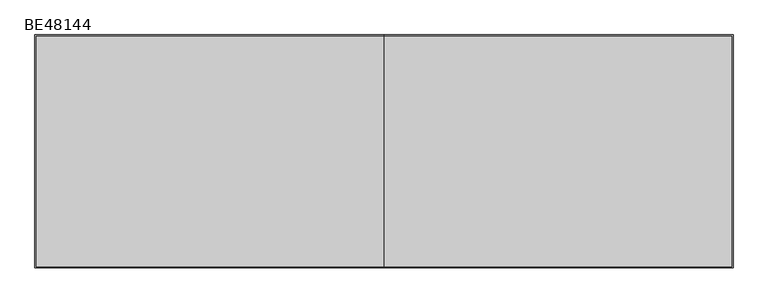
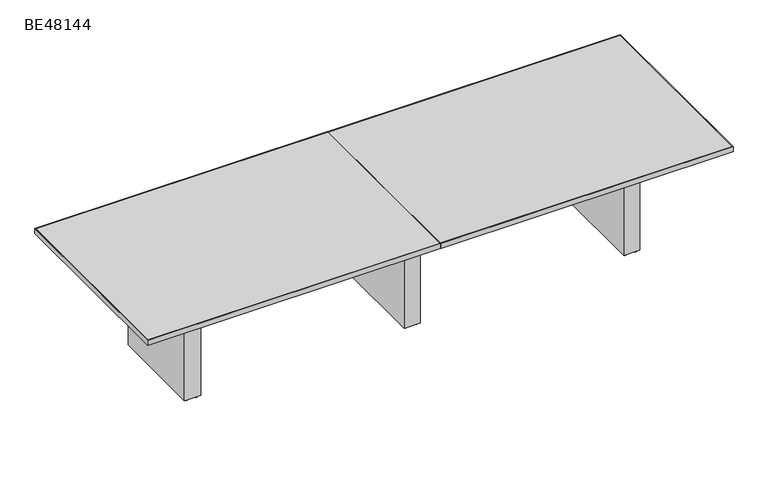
"""IFC4 building model written with IfcOpenShell, lengths in millimetres: furniture geometry, ERG-Beta-Conference_Table-Rectangle : BE48144."""

from ifc_helpers import new_model, si_unit, point, frame, frame_2d, origin, origin_with_axes, place, context, project, spatial, polyline, circle_curve, trimmed, segment, composite_curve, outline, extrude, source, transform, mapped, element, save


def be48144_10aec17a(model_context):
    return source(origin(), model_context, "Body", "SweptSolid", [
        extrude(outline(composite_curve([segment(trimmed(circle_curve(frame_2d((511.175, 339.476527)), 9.525), [point((501.65, 339.476527))], [point((520.7, 339.476527))], False, "CARTESIAN"), True, "CONTINUOUS"), segment(trimmed(circle_curve(frame_2d((511.175, 339.476527)), 9.525), [point((520.7, 339.476527))], [point((501.65, 339.476527))], False, "CARTESIAN"), True, "CONTINUOUS")], self_intersect=False)), origin_with_axes(), (0.0, 0.0, 1.0), 9.525),
        extrude(outline(composite_curve([segment(trimmed(circle_curve(frame_2d((574.675, 339.476527)), 9.525), [point((565.15, 339.476527))], [point((584.2, 339.476527))], False, "CARTESIAN"), True, "CONTINUOUS"), segment(trimmed(circle_curve(frame_2d((574.675, 339.476527)), 9.525), [point((584.2, 339.476527))], [point((565.15, 339.476527))], False, "CARTESIAN"), True, "CONTINUOUS")], self_intersect=False)), origin_with_axes(), (0.0, 0.0, 1.0), 9.525),
        extrude(outline(composite_curve([segment(trimmed(circle_curve(frame_2d((511.175, -232.023473)), 9.525), [point((501.65, -232.023473))], [point((520.7, -232.023473))], False, "CARTESIAN"), True, "CONTINUOUS"), segment(trimmed(circle_curve(frame_2d((511.175, -232.023473)), 9.525), [point((520.7, -232.023473))], [point((501.65, -232.023473))], False, "CARTESIAN"), True, "CONTINUOUS")], self_intersect=False)), origin_with_axes(), (0.0, 0.0, 1.0), 9.525),
        extrude(outline(composite_curve([segment(trimmed(circle_curve(frame_2d((574.675, -232.023473)), 9.525), [point((565.15, -232.023473))], [point((584.2, -232.023473))], False, "CARTESIAN"), True, "CONTINUOUS"), segment(trimmed(circle_curve(frame_2d((574.675, -232.023473)), 9.525), [point((584.2, -232.023473))], [point((565.15, -232.023473))], False, "CARTESIAN"), True, "CONTINUOUS")], self_intersect=False)), origin_with_axes(), (0.0, 0.0, 1.0), 9.525),
        extrude(outline(polyline([(593.725, 358.526527), (593.725, -251.073473), (492.125, -251.073473), (492.125, 358.526527), (593.725, 358.526527)])), frame((0.0, 0.0, 9.525), z_axis=(0.0, 0.0, 1.0), x_axis=(1.0, 0.0, 0.0)), (0.0, 0.0, 1.0), 695.3249758),
        extrude(outline(composite_curve([segment(trimmed(circle_curve(frame_2d((1882.775, 339.476527)), 9.525), [point((1873.25, 339.476527))], [point((1892.3, 339.476527))], False, "CARTESIAN"), True, "CONTINUOUS"), segment(trimmed(circle_curve(frame_2d((1882.775, 339.476527)), 9.525), [point((1892.3, 339.476527))], [point((1873.25, 339.476527))], False, "CARTESIAN"), True, "CONTINUOUS")], self_intersect=False)), origin_with_axes(), (0.0, 0.0, 1.0), 9.525),
        extrude(outline(composite_curve([segment(trimmed(circle_curve(frame_2d((1946.275, 339.476527)), 9.525), [point((1936.75, 339.476527))], [point((1955.8, 339.476527))], False, "CARTESIAN"), True, "CONTINUOUS"), segment(trimmed(circle_curve(frame_2d((1946.275, 339.476527)), 9.525), [point((1955.8, 339.476527))], [point((1936.75, 339.476527))], False, "CARTESIAN"), True, "CONTINUOUS")], self_intersect=False)), origin_with_axes(), (0.0, 0.0, 1.0), 9.525),
        extrude(outline(composite_curve([segment(trimmed(circle_curve(frame_2d((1882.775, -232.023473)), 9.525), [point((1873.25, -232.023473))], [point((1892.3, -232.023473))], False, "CARTESIAN"), True, "CONTINUOUS"), segment(trimmed(circle_curve(frame_2d((1882.775, -232.023473)), 9.525), [point((1892.3, -232.023473))], [point((1873.25, -232.023473))], False, "CARTESIAN"), True, "CONTINUOUS")], self_intersect=False)), origin_with_axes(), (0.0, 0.0, 1.0), 9.525),
        extrude(outline(composite_curve([segment(trimmed(circle_curve(frame_2d((1946.275, -232.023473)), 9.525), [point((1936.75, -232.023473))], [point((1955.8, -232.023473))], False, "CARTESIAN"), True, "CONTINUOUS"), segment(trimmed(circle_curve(frame_2d((1946.275, -232.023473)), 9.525), [point((1955.8, -232.023473))], [point((1936.75, -232.023473))], False, "CARTESIAN"), True, "CONTINUOUS")], self_intersect=False)), origin_with_axes(), (0.0, 0.0, 1.0), 9.525),
        extrude(outline(polyline([(1965.325, 358.526527), (1965.325, -251.073473), (1863.725, -251.073473), (1863.725, 358.526527), (1965.325, 358.526527)])), frame((0.0, 0.0, 9.525), z_axis=(0.0, 0.0, 1.0), x_axis=(1.0, 0.0, 0.0)), (0.0, 0.0, 1.0), 695.3249758),
        extrude(outline(composite_curve([segment(trimmed(circle_curve(frame_2d((-860.425, 339.476527)), 9.525), [point((-869.95, 339.476527))], [point((-850.9, 339.476527))], False, "CARTESIAN"), True, "CONTINUOUS"), segment(trimmed(circle_curve(frame_2d((-860.425, 339.476527)), 9.525), [point((-850.9, 339.476527))], [point((-869.95, 339.476527))], False, "CARTESIAN"), True, "CONTINUOUS")], self_intersect=False)), origin_with_axes(), (0.0, 0.0, 1.0), 9.525),
        extrude(outline(composite_curve([segment(trimmed(circle_curve(frame_2d((-796.925, 339.476527)), 9.525), [point((-806.45, 339.476527))], [point((-787.4, 339.476527))], False, "CARTESIAN"), True, "CONTINUOUS"), segment(trimmed(circle_curve(frame_2d((-796.925, 339.476527)), 9.525), [point((-787.4, 339.476527))], [point((-806.45, 339.476527))], False, "CARTESIAN"), True, "CONTINUOUS")], self_intersect=False)), origin_with_axes(), (0.0, 0.0, 1.0), 9.525),
        extrude(outline(composite_curve([segment(trimmed(circle_curve(frame_2d((-860.425, -232.023473)), 9.525), [point((-869.95, -232.023473))], [point((-850.9, -232.023473))], False, "CARTESIAN"), True, "CONTINUOUS"), segment(trimmed(circle_curve(frame_2d((-860.425, -232.023473)), 9.525), [point((-850.9, -232.023473))], [point((-869.95, -232.023473))], False, "CARTESIAN"), True, "CONTINUOUS")], self_intersect=False)), origin_with_axes(), (0.0, 0.0, 1.0), 9.525),
        extrude(outline(composite_curve([segment(trimmed(circle_curve(frame_2d((-796.925, -232.023473)), 9.525), [point((-806.45, -232.023473))], [point((-787.4, -232.023473))], False, "CARTESIAN"), True, "CONTINUOUS"), segment(trimmed(circle_curve(frame_2d((-796.925, -232.023473)), 9.525), [point((-787.4, -232.023473))], [point((-806.45, -232.023473))], False, "CARTESIAN"), True, "CONTINUOUS")], self_intersect=False)), origin_with_axes(), (0.0, 0.0, 1.0), 9.525),
        extrude(outline(polyline([(-777.875, 358.526527), (-777.875, -251.073473), (-879.475, -251.073473), (-879.475, 358.526527), (-777.875, 358.526527)])), frame((0.0, 0.0, 9.525), z_axis=(0.0, 0.0, 1.0), x_axis=(1.0, 0.0, 0.0)), (0.0, 0.0, 1.0), 695.3249758),
        extrude(outline(polyline([(2371.725, 663.326527), (2371.725, -555.873473), (544.5125, -555.873473), (544.5125, -552.698473), (2368.55, -552.698473), (2368.55, 660.151527), (544.5125, 660.151527), (544.5125, 663.326527), (2371.725, 663.326527)])), frame((0.0, 0.0, 704.85), z_axis=(0.0, 0.0, 1.0), x_axis=(1.0, 0.0, 0.0)), (0.0, 0.0, 1.0), 31.75),
        extrude(outline(polyline([(-1285.875, -555.873473), (-1285.875, 663.326527), (541.3375, 663.326527), (541.3375, 660.151527), (-1282.7, 660.151527), (-1282.7, -552.698473), (541.3375, -552.698473), (541.3375, -555.873473), (-1285.875, -555.873473)])), frame((0.0, 0.0, 704.85), z_axis=(0.0, 0.0, 1.0), x_axis=(1.0, 0.0, 0.0)), (0.0, 0.0, 1.0), 31.75),
        extrude(outline(polyline([(2368.55, 660.151527), (2368.55, -552.698473), (544.5125, -552.698473), (544.5125, 660.151527), (2368.55, 660.151527)])), frame((0.0, 0.0, 704.85), z_axis=(0.0, 0.0, 1.0), x_axis=(1.0, 0.0, 0.0)), (0.0, 0.0, 1.0), 31.75),
        extrude(outline(polyline([(-1282.7, -552.698473), (-1282.7, 660.151527), (541.3375, 660.151527), (541.3375, -552.698473), (-1282.7, -552.698473)])), frame((0.0, 0.0, 704.85), z_axis=(0.0, 0.0, 1.0), x_axis=(1.0, 0.0, 0.0)), (0.0, 0.0, 1.0), 31.75),
    ])


if __name__ == "__main__":
    model = new_model("IFC4")
    model_context = context("Model", 3, world=origin())
    ifc_project = project(units=[si_unit("LENGTHUNIT", "METRE", prefix="MILLI")], contexts=[model_context])
    site = spatial("IfcSite", under=ifc_project)
    building = spatial("IfcBuilding", under=site)
    placement = place(None, origin())
    be48144_shape = be48144_10aec17a(model_context)
    element("IfcFurniture", 1, ObjectType="ERG-Beta-Conference_Table-Rectangle : BE48144", at=placement, inside=building, context=model_context, shape_type="MappedRepresentation", body=[
        mapped(be48144_shape, transform((0.0, 0.0, 0.0), x_axis=(1.0, 0.0, 0.0), y_axis=(0.0, 1.0, 0.0), z_axis=(0.0, 0.0, 1.0))),
    ])
    save(model, "model.ifc")
